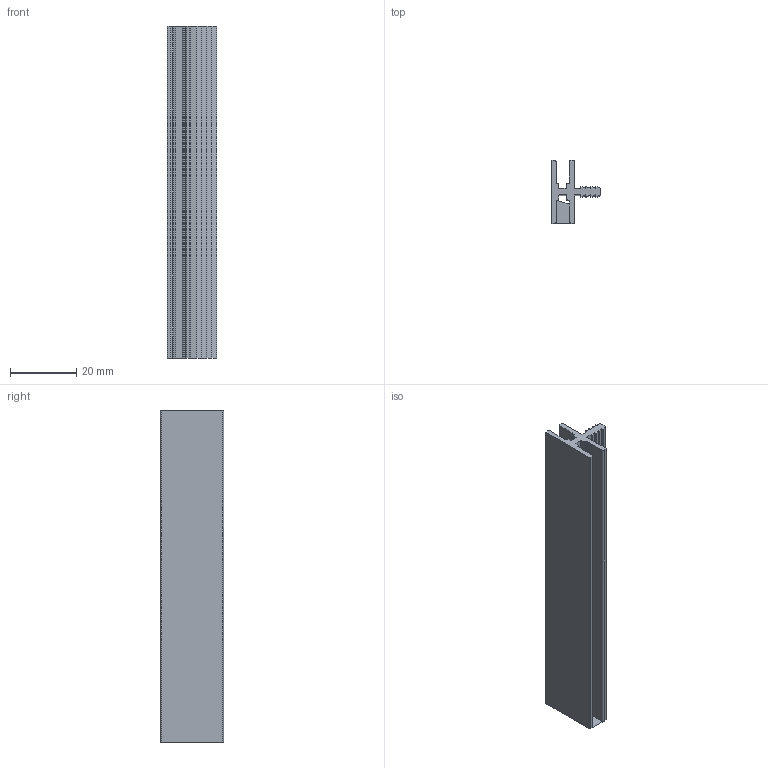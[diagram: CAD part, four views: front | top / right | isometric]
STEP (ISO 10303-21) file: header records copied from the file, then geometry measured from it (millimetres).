
FILE_DESCRIPTION(/* description */ (''),/* implementation_level */ '2;1');
FILE_NAME(/* name */ '508-1_tdra_Leuchtenkanaele_Twin-Light_Duo_mit_Steg.step',/* time_stamp */ '2026-05-12T07:26:33+02:00',/* author */ (''),/* organization */ (''),/* preprocessor_version */ 'ST-DEVELOPER v20.1',/* originating_system */ 'Autodesk Translation Framework v15.8.0.0',/* authorisation */ '');
FILE_SCHEMA (('AUTOMOTIVE_DESIGN { 1 0 10303 214 3 1 1 }'));
Length unit declared in the file: millimetre
Products named in the file (1): 508-1_tdra_Leuchtenkanaele_Twin-Light_Duo_mit_Steg
Bounding box: 15 x 19 x 100 mm (x, y, z)
Volume: 8881.1 mm3; surface area: 10744.2 mm2
Topology: 1 solids, 1 shells, 85 faces, 249 edges, 166 vertices
Faces by surface type: plane 55, bspline 28, cylinder 2
Entity records: 2959 total; most frequent: CARTESIAN_POINT 821, ORIENTED_EDGE 498, DIRECTION 341, EDGE_CURVE 249, LINE 189, VECTOR 189, VERTEX_POINT 166, FACE_OUTER_BOUND 85
